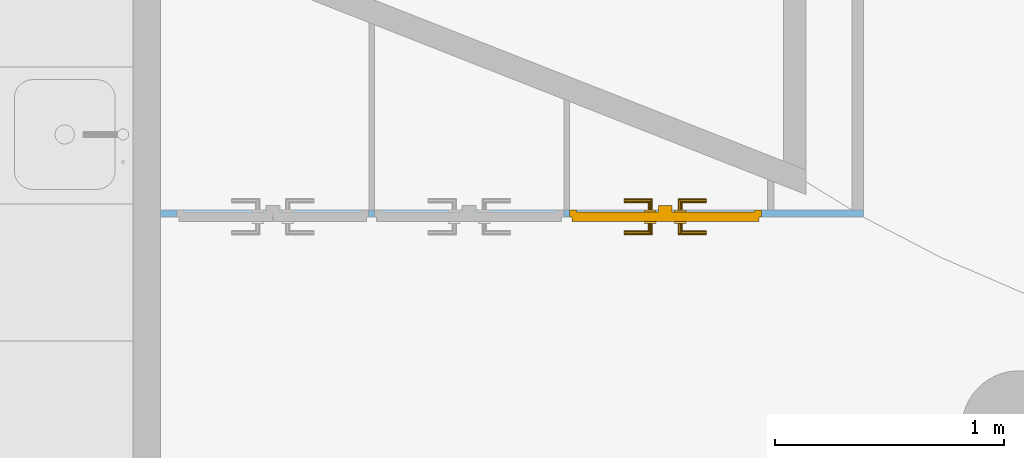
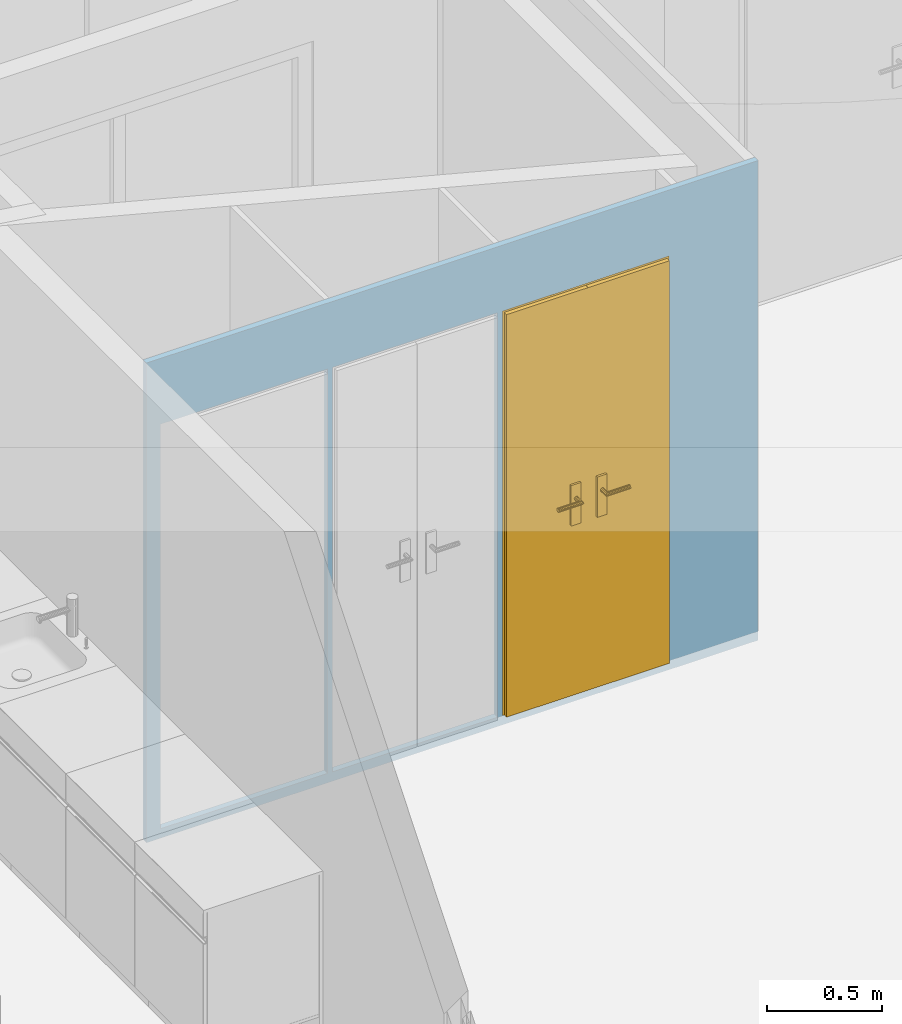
"""IFC4 building model written with IfcOpenShell, lengths in metres."""

from ifc_helpers import new_model, entity, si_unit, converted_unit, derived_unit, frame, frame_2d, origin, origin_with_axes, place, context, subcontext, project, spatial, polyline, rectangle, outline, extrude, faceted_brep, source, transform, mapped, material, layer, layer_set, layer_usage, element, fill, save


model = new_model("IFC4")

# Units and contexts
model_context = context("Model", 3, precision=1e-05, world=origin())
body_context = subcontext(model_context, "Body", "Model", "MODEL_VIEW")
ifc_project = project(units=[si_unit("LENGTHUNIT", "METRE"), si_unit("AREAUNIT", "SQUARE_METRE"), si_unit("VOLUMEUNIT", "CUBIC_METRE"), si_unit("MASSUNIT", "GRAM", prefix="KILO"), converted_unit("PLANEANGLEUNIT", "DEGREE", entity("IfcPlaneAngleMeasure", 0.0174532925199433), si_unit("PLANEANGLEUNIT", "RADIAN"), dimensions=[0, 0, 0, 0, 0, 0, 0]), derived_unit("THERMALTRANSMITTANCEUNIT", [(si_unit("POWERUNIT", "WATT"), 1), (si_unit("THERMODYNAMICTEMPERATUREUNIT", "KELVIN"), -1), (si_unit("LENGTHUNIT", "METRE"), -2)]), derived_unit("VOLUMETRICFLOWRATEUNIT", [(si_unit("LENGTHUNIT", "METRE"), 3), (converted_unit("TIMEUNIT", "hour", entity("IfcTimeMeasure", 3600.0), si_unit("TIMEUNIT", "SECOND"), dimensions=[0, 0, 1, 0, 0, 0, 0]), -1), (si_unit("LENGTHUNIT", "METRE"), -1)])], contexts=[model_context])

# Building, storeys
building_placement = place(None, origin())
building = spatial("IfcBuilding", under=ifc_project, at=building_placement, Name="HABITATGE PLURIFAMILIAR", CompositionType="ELEMENT")
storey_1_placement = place(building_placement, frame((0.0, 0.0, 3.35)))
storey_1 = spatial("IfcBuildingStorey", under=building, at=storey_1_placement, Name="PLANTA  ALTELL", CompositionType="ELEMENT", Elevation=3.35)
storey_2_placement = place(storey_1_placement, origin())
storey_2 = spatial("IfcBuildingStorey", under=storey_1, at=storey_2_placement, Name="NOU", CompositionType="PARTIAL")

# Wall, openings, door
ifc_material = material()
ifc_layer = layer(ifc_material, 0.03)
ifc_layer_set = layer_set([ifc_layer])
ifc_layer_usage = layer_usage(ifc_layer_set, "AXIS2", "POSITIVE", 0.0)
wall_placement = place(storey_2_placement, frame((406.991931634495, 22.0635846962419, -0.05)))
wall = element("IfcWall", 1, at=wall_placement, inside=storey_2, material=ifc_layer_usage, Name="Evans PA", context=body_context, shape_type="SweptSolid", body=[
    extrude(rectangle(XDim=3.07526201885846, YDim=0.03, at=frame_2d((1.53763100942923, 0.015), x_axis=(1.0, 0.0))), origin_with_axes(), (0.0, 0.0, 1.0), 2.55),
])
opening_1_placement = place(wall_placement, frame((0.935853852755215, 0.0, 0.05), z_axis=(0.0, 1.0, 0.0), x_axis=(0.0, 0.0, 1.0)))
element("IfcOpeningElement", 2, at=opening_1_placement, cuts=wall, Name="Vano de puerta PA", ObjectType="Opening", context=body_context, shape_type="SweptSolid", body=[
    extrude(outline(polyline([(2.15, 0.828330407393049), (2.15, 0.0), (0.0, 0.0), (0.0, 0.828330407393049), (2.15, 0.828330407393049)])), origin_with_axes(), (0.0, 0.0, 1.0), 0.03),
])
opening_2_placement = place(wall_placement, frame((1.78918426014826, 0.0, 0.05), z_axis=(0.0, 1.0, 0.0), x_axis=(0.0, 0.0, 1.0)))
opening_2 = element("IfcOpeningElement", 3, at=opening_2_placement, cuts=wall, Name="Vano de puerta PA", ObjectType="Opening", context=body_context, shape_type="SweptSolid", body=[
    extrude(outline(polyline([(2.15, 0.839188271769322), (2.15, 0.0), (0.0, 0.0), (0.0, 0.839188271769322), (2.15, 0.839188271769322)])), origin_with_axes(), (0.0, 0.0, 1.0), 0.03),
])
opening_3_placement = place(wall_placement, frame((0.0714767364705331, 0.0, 0.05), z_axis=(0.0, 1.0, 0.0), x_axis=(0.0, 0.0, 1.0)))
element("IfcOpeningElement", 4, at=opening_3_placement, cuts=wall, Name="Vano de puerta PA", ObjectType="Opening", context=body_context, shape_type="SweptSolid", body=[
    extrude(outline(polyline([(2.15, 0.839188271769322), (2.15, 0.0), (0.0, 0.0), (0.0, 0.839188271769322), (2.15, 0.839188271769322)])), origin_with_axes(), (0.0, 0.0, 1.0), 0.03),
])
shared_shape = source(origin_with_axes(), body_context, "Body", "Brep", [
    faceted_brep([(0.839188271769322, 0.03, 2.15), (0.809188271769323, 0.03, 2.15), (0.809188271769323, 0.03, 0.0), (0.839188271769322, 0.03, 0.0), (0.839188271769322, 0.0, 0.0), (0.809188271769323, 0.0, 0.0), (0.809188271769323, 0.0, 2.15), (0.839188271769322, 0.0, 2.15)], [[[0, 1, 2, 3]], [[4, 5, 6, 7]], [[3, 4, 7, 0]], [[2, 5, 4, 3]], [[1, 6, 5, 2]], [[0, 7, 6, 1]]], orient=[[False], [False], [False], [False], [False], [False]]),
    faceted_brep([(0.03, 0.03, 2.15), (0.0, 0.03, 2.15), (0.0, 0.03, 0.0), (0.03, 0.03, 0.0), (0.03, 0.0, 0.0), (0.0, 0.0, 0.0), (0.0, 0.0, 2.15), (0.03, 0.0, 2.15)], [[[0, 1, 2, 3]], [[4, 5, 6, 7]], [[3, 4, 7, 0]], [[2, 5, 4, 3]], [[1, 6, 5, 2]], [[0, 7, 6, 1]]], orient=[[False], [False], [False], [False], [False], [False]]),
    faceted_brep([(0.809188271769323, 0.03, 2.15), (0.03, 0.03, 2.15), (0.03, 0.03, 2.12), (0.809188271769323, 0.03, 2.12), (0.809188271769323, 0.0, 2.12), (0.03, 0.0, 2.12), (0.03, 0.0, 2.15), (0.809188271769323, 0.0, 2.15)], [[[0, 1, 2, 3]], [[4, 5, 6, 7]], [[3, 4, 7, 0]], [[2, 5, 4, 3]], [[1, 6, 5, 2]], [[0, 7, 6, 1]]], orient=[[False], [False], [False], [False], [False], [False]]),
    faceted_brep([(0.829188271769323, 0.05, 2.14), (0.420094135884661, 0.05, 2.14), (0.420094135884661, 0.05, 0.0), (0.829188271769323, 0.05, 0.0), (0.829188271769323, 0.01, 0.0), (0.420094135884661, 0.01, 0.0), (0.420094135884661, 0.01, 2.14), (0.829188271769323, 0.01, 2.14)], [[[0, 1, 2, 3]], [[4, 5, 6, 7]], [[3, 4, 7, 0]], [[2, 5, 4, 3]], [[1, 6, 5, 2]], [[0, 7, 6, 1]]], orient=[[False], [False], [False], [False], [False], [False]]),
    faceted_brep([(0.450094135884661, 0.01, 2.12), (0.390094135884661, 0.01, 2.12), (0.390094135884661, 0.01, 0.0), (0.450094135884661, 0.01, 0.0), (0.450094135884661, -0.02, 0.0), (0.390094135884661, -0.02, 0.0), (0.390094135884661, -0.02, 2.12), (0.450094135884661, -0.02, 2.12)], [[[0, 1, 2, 3]], [[4, 5, 6, 7]], [[3, 4, 7, 0]], [[2, 5, 4, 3]], [[1, 6, 5, 2]], [[0, 7, 6, 1]]], orient=[[False], [False], [False], [False], [False], [False]]),
    faceted_brep([(0.510094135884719, 0.01, 1.125), (0.460094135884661, 0.01, 1.125), (0.460094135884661, 0.01, 0.91), (0.510094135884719, 0.01, 0.91), (0.510094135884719, 0.0, 0.91), (0.460094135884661, 0.0, 0.91), (0.460094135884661, 0.0, 1.125), (0.510094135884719, 0.0, 1.125)], [[[0, 1, 2, 3]], [[4, 5, 6, 7]], [[3, 4, 7, 0]], [[2, 5, 4, 3]], [[1, 6, 5, 2]], [[0, 7, 6, 1]]], orient=[[False], [False], [False], [False], [False], [False]]),
    faceted_brep([(0.485094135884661, 0.0, 1.06), (0.480094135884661, 0.0, 1.05866025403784), (0.476433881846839, 0.0, 1.055), (0.475094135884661, 0.0, 1.05), (0.476433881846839, 0.0, 1.045), (0.480094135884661, 0.0, 1.04133974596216), (0.485094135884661, 0.0, 1.04), (0.490094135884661, 0.0, 1.04133974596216), (0.493754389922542, 0.0, 1.045), (0.495094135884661, 0.0, 1.05), (0.493754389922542, 0.0, 1.055), (0.490094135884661, 0.0, 1.05866025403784), (0.485094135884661, -0.04, 1.06), (0.480094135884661, -0.045, 1.05866025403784), (0.476433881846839, -0.0486602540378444, 1.055), (0.475094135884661, -0.05, 1.05), (0.476433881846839, -0.0486602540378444, 1.045), (0.480094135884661, -0.045, 1.04133974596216), (0.485094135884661, -0.04, 1.04), (0.490094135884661, -0.035, 1.04133974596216), (0.493754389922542, -0.0313397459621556, 1.045), (0.495094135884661, -0.03, 1.05), (0.493754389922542, -0.0313397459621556, 1.055), (0.490094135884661, -0.035, 1.05866025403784), (0.600094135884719, -0.04, 1.06), (0.600094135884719, -0.035, 1.05866025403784), (0.600094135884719, -0.0313397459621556, 1.055), (0.600094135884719, -0.03, 1.05), (0.600094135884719, -0.0313397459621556, 1.045), (0.600094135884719, -0.035, 1.04133974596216), (0.600094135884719, -0.04, 1.04), (0.600094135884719, -0.045, 1.04133974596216), (0.600094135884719, -0.0486602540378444, 1.045), (0.600094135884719, -0.05, 1.05), (0.600094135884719, -0.0486602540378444, 1.055), (0.600094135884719, -0.045, 1.05866025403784)], [[[0, 1, 2, 3, 4, 5, 6, 7, 8, 9, 10, 11]], [[0, 12, 13, 1]], [[1, 13, 14, 2]], [[2, 14, 15, 3]], [[3, 15, 16, 4]], [[4, 16, 17, 5]], [[5, 17, 18, 6]], [[6, 18, 19, 7]], [[7, 19, 20, 8]], [[8, 20, 21, 9]], [[9, 21, 22, 10]], [[10, 22, 23, 11]], [[11, 23, 12, 0]], [[24, 25, 26, 27, 28, 29, 30, 31, 32, 33, 34, 35]], [[12, 24, 35, 13]], [[13, 35, 34, 14]], [[14, 34, 33, 15]], [[15, 33, 32, 16]], [[16, 32, 31, 17]], [[17, 31, 30, 18]], [[18, 30, 29, 19]], [[19, 29, 28, 20]], [[20, 28, 27, 21]], [[21, 27, 26, 22]], [[22, 26, 25, 23]], [[23, 25, 24, 12]]], orient=[[False], [False], [False], [False], [False], [False], [False], [False], [False], [False], [False], [False], [False], [False], [False], [False], [False], [False], [False], [False], [False], [False], [False], [False], [False], [False]]),
    faceted_brep([(0.510094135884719, 0.05, 1.125), (0.510094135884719, 0.05, 0.91), (0.460094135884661, 0.05, 0.91), (0.460094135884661, 0.05, 1.125), (0.510094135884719, 0.06, 0.91), (0.510094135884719, 0.06, 1.125), (0.460094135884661, 0.06, 1.125), (0.460094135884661, 0.06, 0.91)], [[[0, 1, 2, 3]], [[4, 5, 6, 7]], [[1, 0, 5, 4]], [[2, 1, 4, 7]], [[3, 2, 7, 6]], [[0, 3, 6, 5]]], orient=[[False], [False], [False], [False], [False], [False]]),
    faceted_brep([(0.485094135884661, 0.06, 1.06), (0.490094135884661, 0.06, 1.05866025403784), (0.493754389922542, 0.06, 1.055), (0.495094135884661, 0.06, 1.05), (0.493754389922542, 0.06, 1.045), (0.490094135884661, 0.06, 1.04133974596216), (0.485094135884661, 0.06, 1.04), (0.480094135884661, 0.06, 1.04133974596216), (0.476433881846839, 0.06, 1.045), (0.475094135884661, 0.06, 1.05), (0.476433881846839, 0.06, 1.055), (0.480094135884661, 0.06, 1.05866025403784), (0.480094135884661, 0.105, 1.05866025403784), (0.485094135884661, 0.1, 1.06), (0.476433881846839, 0.108660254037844, 1.055), (0.475094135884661, 0.11, 1.05), (0.476433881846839, 0.108660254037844, 1.045), (0.480094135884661, 0.105, 1.04133974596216), (0.485094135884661, 0.1, 1.04), (0.490094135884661, 0.095, 1.04133974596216), (0.493754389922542, 0.0913397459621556, 1.045), (0.495094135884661, 0.09, 1.05), (0.493754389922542, 0.0913397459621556, 1.055), (0.490094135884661, 0.095, 1.05866025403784), (0.600094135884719, 0.1, 1.06), (0.600094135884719, 0.105, 1.05866025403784), (0.600094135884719, 0.108660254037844, 1.055), (0.600094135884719, 0.11, 1.05), (0.600094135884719, 0.108660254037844, 1.045), (0.600094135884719, 0.105, 1.04133974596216), (0.600094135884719, 0.1, 1.04), (0.600094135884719, 0.095, 1.04133974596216), (0.600094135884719, 0.0913397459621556, 1.045), (0.600094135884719, 0.09, 1.05), (0.600094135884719, 0.0913397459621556, 1.055), (0.600094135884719, 0.095, 1.05866025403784)], [[[0, 1, 2, 3, 4, 5, 6, 7, 8, 9, 10, 11]], [[0, 11, 12, 13]], [[11, 10, 14, 12]], [[10, 9, 15, 14]], [[9, 8, 16, 15]], [[8, 7, 17, 16]], [[7, 6, 18, 17]], [[6, 5, 19, 18]], [[5, 4, 20, 19]], [[4, 3, 21, 20]], [[3, 2, 22, 21]], [[2, 1, 23, 22]], [[1, 0, 13, 23]], [[24, 25, 26, 27, 28, 29, 30, 31, 32, 33, 34, 35]], [[13, 12, 25, 24]], [[12, 14, 26, 25]], [[14, 15, 27, 26]], [[15, 16, 28, 27]], [[16, 17, 29, 28]], [[17, 18, 30, 29]], [[18, 19, 31, 30]], [[19, 20, 32, 31]], [[20, 21, 33, 32]], [[21, 22, 34, 33]], [[22, 23, 35, 34]], [[23, 13, 24, 35]]], orient=[[False], [False], [False], [False], [False], [False], [False], [False], [False], [False], [False], [False], [False], [False], [False], [False], [False], [False], [False], [False], [False], [False], [False], [False], [False], [False]]),
    faceted_brep([(0.419094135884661, 0.05, 2.14), (0.01, 0.05, 2.14), (0.01, 0.05, 0.0), (0.419094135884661, 0.05, 0.0), (0.419094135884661, 0.01, 0.0), (0.01, 0.01, 0.0), (0.01, 0.01, 2.14), (0.419094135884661, 0.01, 2.14)], [[[0, 1, 2, 3]], [[4, 5, 6, 7]], [[3, 4, 7, 0]], [[2, 5, 4, 3]], [[1, 6, 5, 2]], [[0, 7, 6, 1]]], orient=[[False], [False], [False], [False], [False], [False]]),
    faceted_brep([(0.379094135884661, 0.01, 1.125), (0.329094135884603, 0.01, 1.125), (0.329094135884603, 0.01, 0.91), (0.379094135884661, 0.01, 0.91), (0.379094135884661, 0.0, 0.91), (0.329094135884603, 0.0, 0.91), (0.329094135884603, 0.0, 1.125), (0.379094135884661, 0.0, 1.125)], [[[0, 1, 2, 3]], [[4, 5, 6, 7]], [[3, 4, 7, 0]], [[2, 5, 4, 3]], [[1, 6, 5, 2]], [[0, 7, 6, 1]]], orient=[[False], [False], [False], [False], [False], [False]]),
    faceted_brep([(0.354094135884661, 0.0, 1.06), (0.349094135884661, 0.0, 1.05866025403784), (0.34543388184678, 0.0, 1.055), (0.344094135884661, 0.0, 1.05), (0.34543388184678, 0.0, 1.045), (0.349094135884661, 0.0, 1.04133974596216), (0.354094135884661, 0.0, 1.04), (0.359094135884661, 0.0, 1.04133974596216), (0.362754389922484, 0.0, 1.045), (0.364094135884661, 0.0, 1.05), (0.362754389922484, 0.0, 1.055), (0.359094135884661, 0.0, 1.05866025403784), (0.359094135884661, -0.045, 1.05866025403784), (0.354094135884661, -0.04, 1.06), (0.362754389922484, -0.0486602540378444, 1.055), (0.364094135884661, -0.05, 1.05), (0.362754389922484, -0.0486602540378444, 1.045), (0.359094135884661, -0.045, 1.04133974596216), (0.354094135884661, -0.04, 1.04), (0.349094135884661, -0.035, 1.04133974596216), (0.34543388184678, -0.0313397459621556, 1.045), (0.344094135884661, -0.03, 1.05), (0.34543388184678, -0.0313397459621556, 1.055), (0.349094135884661, -0.035, 1.05866025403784), (0.239094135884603, -0.04, 1.06), (0.239094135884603, -0.045, 1.05866025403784), (0.239094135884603, -0.0486602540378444, 1.055), (0.239094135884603, -0.05, 1.05), (0.239094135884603, -0.0486602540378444, 1.045), (0.239094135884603, -0.045, 1.04133974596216), (0.239094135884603, -0.04, 1.04), (0.239094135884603, -0.035, 1.04133974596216), (0.239094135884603, -0.0313397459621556, 1.045), (0.239094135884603, -0.03, 1.05), (0.239094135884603, -0.0313397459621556, 1.055), (0.239094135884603, -0.035, 1.05866025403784)], [[[0, 1, 2, 3, 4, 5, 6, 7, 8, 9, 10, 11]], [[0, 11, 12, 13]], [[11, 10, 14, 12]], [[10, 9, 15, 14]], [[9, 8, 16, 15]], [[8, 7, 17, 16]], [[7, 6, 18, 17]], [[6, 5, 19, 18]], [[5, 4, 20, 19]], [[4, 3, 21, 20]], [[3, 2, 22, 21]], [[2, 1, 23, 22]], [[1, 0, 13, 23]], [[24, 25, 26, 27, 28, 29, 30, 31, 32, 33, 34, 35]], [[13, 12, 25, 24]], [[12, 14, 26, 25]], [[14, 15, 27, 26]], [[15, 16, 28, 27]], [[16, 17, 29, 28]], [[17, 18, 30, 29]], [[18, 19, 31, 30]], [[19, 20, 32, 31]], [[20, 21, 33, 32]], [[21, 22, 34, 33]], [[22, 23, 35, 34]], [[23, 13, 24, 35]]], orient=[[False], [False], [False], [False], [False], [False], [False], [False], [False], [False], [False], [False], [False], [False], [False], [False], [False], [False], [False], [False], [False], [False], [False], [False], [False], [False]]),
    faceted_brep([(0.379094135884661, 0.05, 1.125), (0.379094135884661, 0.05, 0.91), (0.329094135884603, 0.05, 0.91), (0.329094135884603, 0.05, 1.125), (0.379094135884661, 0.06, 0.91), (0.379094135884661, 0.06, 1.125), (0.329094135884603, 0.06, 1.125), (0.329094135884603, 0.06, 0.91)], [[[0, 1, 2, 3]], [[4, 5, 6, 7]], [[1, 0, 5, 4]], [[2, 1, 4, 7]], [[3, 2, 7, 6]], [[0, 3, 6, 5]]], orient=[[False], [False], [False], [False], [False], [False]]),
    faceted_brep([(0.354094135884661, 0.06, 1.06), (0.359094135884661, 0.06, 1.05866025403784), (0.362754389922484, 0.06, 1.055), (0.364094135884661, 0.06, 1.05), (0.362754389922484, 0.06, 1.045), (0.359094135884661, 0.06, 1.04133974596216), (0.354094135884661, 0.06, 1.04), (0.349094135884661, 0.06, 1.04133974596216), (0.34543388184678, 0.06, 1.045), (0.344094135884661, 0.06, 1.05), (0.34543388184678, 0.06, 1.055), (0.349094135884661, 0.06, 1.05866025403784), (0.354094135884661, 0.1, 1.06), (0.359094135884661, 0.105, 1.05866025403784), (0.362754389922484, 0.108660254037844, 1.055), (0.364094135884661, 0.11, 1.05), (0.362754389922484, 0.108660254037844, 1.045), (0.359094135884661, 0.105, 1.04133974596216), (0.354094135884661, 0.1, 1.04), (0.349094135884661, 0.095, 1.04133974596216), (0.34543388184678, 0.0913397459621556, 1.045), (0.344094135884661, 0.09, 1.05), (0.34543388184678, 0.0913397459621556, 1.055), (0.349094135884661, 0.095, 1.05866025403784), (0.239094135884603, 0.1, 1.06), (0.239094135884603, 0.095, 1.05866025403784), (0.239094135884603, 0.0913397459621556, 1.055), (0.239094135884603, 0.09, 1.05), (0.239094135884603, 0.0913397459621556, 1.045), (0.239094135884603, 0.095, 1.04133974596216), (0.239094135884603, 0.1, 1.04), (0.239094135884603, 0.105, 1.04133974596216), (0.239094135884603, 0.108660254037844, 1.045), (0.239094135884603, 0.11, 1.05), (0.239094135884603, 0.108660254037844, 1.055), (0.239094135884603, 0.105, 1.05866025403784)], [[[0, 1, 2, 3, 4, 5, 6, 7, 8, 9, 10, 11]], [[0, 12, 13, 1]], [[1, 13, 14, 2]], [[2, 14, 15, 3]], [[3, 15, 16, 4]], [[4, 16, 17, 5]], [[5, 17, 18, 6]], [[6, 18, 19, 7]], [[7, 19, 20, 8]], [[8, 20, 21, 9]], [[9, 21, 22, 10]], [[10, 22, 23, 11]], [[11, 23, 12, 0]], [[24, 25, 26, 27, 28, 29, 30, 31, 32, 33, 34, 35]], [[12, 24, 35, 13]], [[13, 35, 34, 14]], [[14, 34, 33, 15]], [[15, 33, 32, 16]], [[16, 32, 31, 17]], [[17, 31, 30, 18]], [[18, 30, 29, 19]], [[19, 29, 28, 20]], [[20, 28, 27, 21]], [[21, 27, 26, 22]], [[22, 26, 25, 23]], [[23, 25, 24, 12]]], orient=[[False], [False], [False], [False], [False], [False], [False], [False], [False], [False], [False], [False], [False], [False], [False], [False], [False], [False], [False], [False], [False], [False], [False], [False], [False], [False]]),
])
door_placement = place(opening_2_placement, frame((0.0, 0.839188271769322, 0.03), z_axis=(1.0, 0.0, 0.0), x_axis=(0.0, -1.0, 0.0)))
door = element("IfcDoor", 5, at=door_placement, inside=storey_2, Name="Porta PA", OperationType="USERDEFINED", OverallHeight=2.15, OverallWidth=0.83919, PredefinedType="DOOR", context=body_context, shape_type="MappedRepresentation", body=[
    mapped(shared_shape, transform((0.0, 0.0, 0.0), x_axis=(1.0, 0.0, 0.0), y_axis=(0.0, 1.0, 0.0), z_axis=(0.0, 0.0, 1.0), scale=1.0)),
])
fill(opening_2, door)

save(model, "model.ifc")
